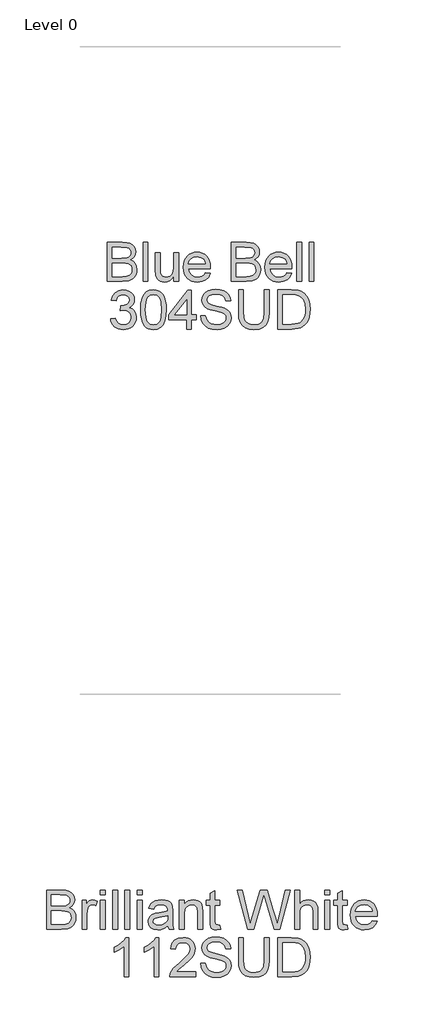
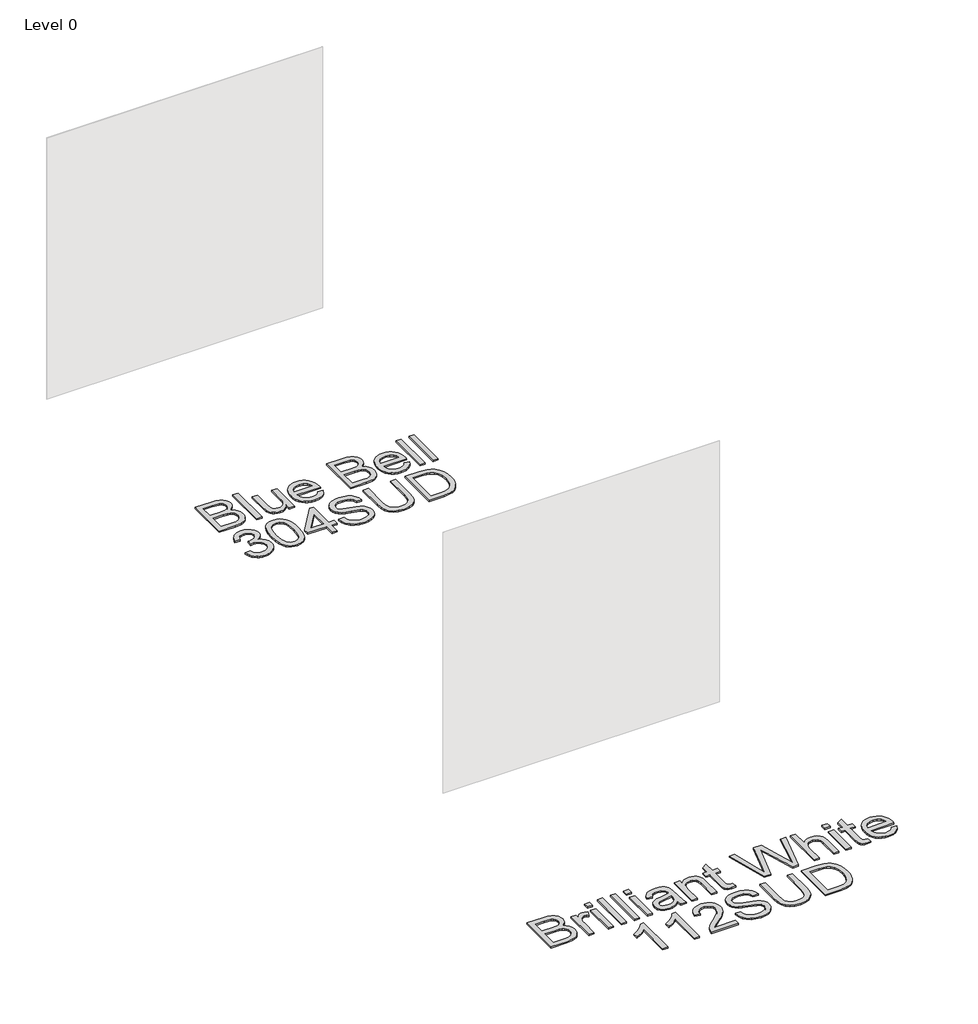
# One storey, part 4 of 37: 2 proxies.
"""IFC4 building model written with IfcOpenShell, lengths in millimetres."""

from ifc_helpers import new_model, si_unit, origin, origin_with_axes, place, context, project, spatial, polyline, outline, extrude, element, save

model = new_model("IFC4")

# Units and contexts
model_context = context("Model", 3, world=origin())
ifc_project = project(units=[si_unit("LENGTHUNIT", "METRE", prefix="MILLI")], contexts=[model_context])

# Site, building, storey
site = spatial("IfcSite", under=ifc_project)
building = spatial("IfcBuilding", under=site)
storey = spatial("IfcBuildingStorey", under=building, Name="Level 0", Elevation=0.0)

# Proxies
placement = place(None, origin())
element("IfcBuildingElementProxy", 1, Name="300mm Arial", ObjectType="300mm Arial", at=placement, inside=storey, context=model_context, shape_type="SweptSolid", body=[
    extrude(outline(polyline([(-5241.7514987, -41912.860494), (-5241.7514987, -41611.4915635), (-5126.751587, -41611.4915635), (-5095.1229325, -41613.7080526), (-5070.4288536, -41620.3575196), (-5051.5013249, -41631.6055116), (-5037.1723212, -41647.6175755), (-5028.1500153, -41666.4531336), (-5025.14258, -41686.1716086), (-5027.6717687, -41704.317388), (-5035.2593348, -41721.3779155), (-5047.9604607, -41736.3047274), (-5065.8303286, -41748.0493601), (-5044.4839759, -41759.1961846), (-5028.7110353, -41776.1555446), (-5018.9713595, -41797.8054), (-5015.7248009, -41823.0237108), (-5017.9412899, -41844.0389697), (-5024.590757, -41863.5275184), (-5034.5143738, -41880.1006023), (-5046.5533121, -41892.3694668), (-5061.2961831, -41901.253817), (-5079.3315979, -41907.6733578), (-5127.6345038, -41912.860494), (-5241.7514987, -41912.860494)]), holes=[polyline([(-5204.0803824, -41733.9226915), (-5135.2864493, -41733.9226915), (-5095.1137355, -41730.68533), (-5081.0514462, -41725.1027207), (-5070.9438884, -41716.7426024), (-5064.8462443, -41705.7337336), (-5062.8136963, -41692.2048733), (-5064.7082886, -41679.071486), (-5070.3920654, -41667.630356), (-5079.6075094, -41658.7000206), (-5092.0971031, -41653.0990172), (-5140.5103737, -41649.1626798), (-5204.0803824, -41649.1626798), (-5204.0803824, -41733.9226915)]), polyline([(-5204.0803824, -41875.1893777), (-5126.8251634, -41875.1893777), (-5098.8661318, -41873.7178497), (-5075.2113195, -41865.5140812), (-5059.5395465, -41848.7754504), (-5054.9318245, -41836.9480443), (-5053.3959172, -41823.3915928), (-5055.198539, -41807.6462434), (-5060.6064043, -41794.1081859), (-5070.0517745, -41783.5223815), (-5083.966911, -41776.6337912), (-5103.6761889, -41772.8538037), (-5130.5039834, -41771.5938078), (-5204.0803824, -41771.5938078), (-5204.0803824, -41875.1893777)])]), origin_with_axes(), (0.0, 0.0, 1.0), 10.0),
    extrude(outline(polyline([(-4968.6359055, -41912.860494), (-4968.6359055, -41611.4915635), (-4930.9647892, -41611.4915635), (-4930.9647892, -41912.860494), (-4968.6359055, -41912.860494)])), origin_with_axes(), (0.0, 0.0, 1.0), 10.0),
    extrude(outline(polyline([(-4733.1914286, -41912.860494), (-4733.1914286, -41874.8214957), (-4746.8214565, -41893.5236966), (-4762.6955646, -41906.8824116), (-4780.8137529, -41914.8976405), (-4801.1760213, -41917.5693835), (-4819.5241358, -41915.6931853), (-4836.6030574, -41910.0645908), (-4850.9320612, -41901.6033049), (-4861.0304219, -41891.2290327), (-4872.2508228, -41863.4907302), (-4874.4581148, -41828.4683643), (-4874.4581148, -41691.5426857), (-4836.7869984, -41691.5426857), (-4836.7869984, -41810.7364521), (-4834.5061301, -41849.1433324), (-4829.0154913, -41861.9548229), (-4819.6069093, -41871.6944987), (-4806.9057834, -41877.8473251), (-4791.537513, -41879.8982672), (-4775.2863259, -41877.8013398), (-4760.0836025, -41871.5105577), (-4747.5480235, -41861.605335), (-4739.2982697, -41848.6650858), (-4734.7181389, -41830.9423707), (-4733.1914286, -41806.6897502), (-4733.1914286, -41691.5426857), (-4695.5203123, -41691.5426857), (-4695.5203123, -41912.860494), (-4733.1914286, -41912.860494)])), origin_with_axes(), (0.0, 0.0, 1.0), 10.0),
    extrude(outline(polyline([(-4488.770631, -41846.9360404), (-4451.8352787, -41851.64493), (-4465.1434099, -41879.4752029), (-4486.379398, -41900.2789297), (-4515.0649966, -41913.2467701), (-4550.721959, -41917.5693835), (-4574.0962613, -41915.7046817), (-4594.9229807, -41910.1105761), (-4613.2021174, -41900.7870668), (-4628.9336712, -41887.7341537), (-4641.5842133, -41871.3151204), (-4650.6203148, -41851.8932503), (-4656.0419757, -41829.4685435), (-4657.849196, -41804.0409998), (-4656.0235816, -41777.7512327), (-4650.5467384, -41754.5792656), (-4641.4186664, -41734.5250983), (-4628.6393656, -41717.5887309), (-4612.9491985, -41704.133447), (-4595.0885276, -41694.5225298), (-4575.057353, -41688.7559796), (-4552.8556746, -41686.8337961), (-4531.3690668, -41688.751381), (-4511.9379997, -41694.5041357), (-4494.5624732, -41704.0920602), (-4479.2424873, -41717.5151545), (-4466.7367988, -41734.4147337), (-4457.8041641, -41754.4321128), (-4452.4445832, -41777.5672917), (-4450.6580563, -41803.8202706), (-4450.8787855, -41813.9738137), (-4620.1780797, -41813.9738137), (-4613.6573713, -41842.1719686), (-4598.5098302, -41862.902119), (-4576.6484426, -41875.6492302), (-4549.986195, -41879.8982672), (-4529.9366263, -41877.9300985), (-4513.0508427, -41872.0255925), (-4499.3288443, -41861.8168672), (-4488.770631, -41846.9360404)]), holes=[polyline([(-4620.1780797, -41776.3026974), (-4488.3291726, -41776.3026974), (-4493.4243382, -41756.4002814), (-4503.4123344, -41742.1632482), (-4525.3748895, -41728.9194964), (-4553.0028274, -41724.5049125), (-4578.3958821, -41728.0273826), (-4599.392747, -41738.5947929), (-4613.9884651, -41755.0667092), (-4620.1780797, -41776.3026974)])]), origin_with_axes(), (0.0, 0.0, 1.0), 10.0),
    extrude(outline(polyline([(-4290.555812, -41912.860494), (-4290.555812, -41611.4915635), (-4175.5559003, -41611.4915635), (-4143.9272458, -41613.7080526), (-4119.2331669, -41620.3575196), (-4100.3056382, -41631.6055116), (-4085.9766345, -41647.6175755), (-4076.9543286, -41666.4531336), (-4073.9468932, -41686.1716086), (-4076.476082, -41704.317388), (-4084.0636481, -41721.3779155), (-4096.764774, -41736.3047274), (-4114.6346419, -41748.0493601), (-4093.2882891, -41759.1961846), (-4077.5153486, -41776.1555446), (-4067.7756728, -41797.8054), (-4064.5291142, -41823.0237108), (-4066.7456032, -41844.0389697), (-4073.3950703, -41863.5275184), (-4083.3186871, -41880.1006023), (-4095.3576254, -41892.3694668), (-4110.1004963, -41901.253817), (-4128.1359111, -41907.6733578), (-4176.4388171, -41912.860494), (-4290.555812, -41912.860494)]), holes=[polyline([(-4252.8846957, -41875.1893777), (-4175.6294767, -41875.1893777), (-4147.6704451, -41873.7178497), (-4124.0156328, -41865.5140812), (-4108.3438598, -41848.7754504), (-4103.7361378, -41836.9480443), (-4102.2002305, -41823.3915928), (-4104.0028523, -41807.6462434), (-4109.4107176, -41794.1081859), (-4118.8560878, -41783.5223815), (-4132.7712243, -41776.6337912), (-4152.4805022, -41772.8538037), (-4179.3082967, -41771.5938078), (-4252.8846957, -41771.5938078), (-4252.8846957, -41875.1893777)]), polyline([(-4252.8846957, -41733.9226915), (-4184.0907626, -41733.9226915), (-4143.9180487, -41730.68533), (-4129.8557595, -41725.1027207), (-4119.7482016, -41716.7426024), (-4113.6505576, -41705.7337336), (-4111.6180096, -41692.2048733), (-4113.5126018, -41679.071486), (-4119.1963787, -41667.630356), (-4128.4118226, -41658.7000206), (-4140.9014164, -41653.0990172), (-4189.3146869, -41649.1626798), (-4252.8846957, -41649.1626798), (-4252.8846957, -41733.9226915)])]), origin_with_axes(), (0.0, 0.0, 1.0), 10.0),
    extrude(outline(polyline([(-3862.4883224, -41846.9360404), (-3825.5529701, -41851.64493), (-3838.8611013, -41879.4752029), (-3860.0970895, -41900.2789297), (-3888.782688, -41913.2467701), (-3924.4396504, -41917.5693835), (-3947.8139527, -41915.7046817), (-3968.6406721, -41910.1105761), (-3986.9198088, -41900.7870668), (-4002.6513626, -41887.7341537), (-4015.3019047, -41871.3151204), (-4024.3380062, -41851.8932503), (-4029.7596671, -41829.4685435), (-4031.5668874, -41804.0409998), (-4029.741273, -41777.7512327), (-4024.2644298, -41754.5792656), (-4015.1363578, -41734.5250983), (-4002.357057, -41717.5887309), (-3986.6668899, -41704.133447), (-3968.806219, -41694.5225298), (-3948.7750444, -41688.7559796), (-3926.573366, -41686.8337961), (-3905.0867582, -41688.751381), (-3885.6556911, -41694.5041357), (-3868.2801646, -41704.0920602), (-3852.9601787, -41717.5151545), (-3840.4544902, -41734.4147337), (-3831.5218555, -41754.4321128), (-3826.1622747, -41777.5672917), (-3824.3757477, -41803.8202706), (-3824.5964769, -41813.9738137), (-3993.8957711, -41813.9738137), (-3987.3750627, -41842.1719686), (-3972.2275216, -41862.902119), (-3950.366134, -41875.6492302), (-3923.7038864, -41879.8982672), (-3903.6543177, -41877.9300985), (-3886.7685341, -41872.0255925), (-3873.0465357, -41861.8168672), (-3862.4883224, -41846.9360404)]), holes=[polyline([(-3993.8957711, -41776.3026974), (-3862.046864, -41776.3026974), (-3867.1420297, -41756.4002814), (-3877.1300258, -41742.1632482), (-3899.0925809, -41728.9194964), (-3926.7205188, -41724.5049125), (-3952.1135735, -41728.0273826), (-3973.1104384, -41738.5947929), (-3987.7061565, -41755.0667092), (-3993.8957711, -41776.3026974)])]), origin_with_axes(), (0.0, 0.0, 1.0), 10.0),
    extrude(outline(polyline([(-3786.7046314, -41912.860494), (-3786.7046314, -41611.4915635), (-3749.0335151, -41611.4915635), (-3749.0335151, -41912.860494), (-3786.7046314, -41912.860494)])), origin_with_axes(), (0.0, 0.0, 1.0), 10.0),
    extrude(outline(polyline([(-3692.5268406, -41912.860494), (-3692.5268406, -41611.4915635), (-3654.8557243, -41611.4915635), (-3654.8557243, -41912.860494), (-3692.5268406, -41912.860494)])), origin_with_axes(), (0.0, 0.0, 1.0), 10.0),
    extrude(outline(polyline([(-5218.207051, -42198.7338254), (-5180.5359347, -42194.0249358), (-5172.10224, -42217.6981422), (-5159.750602, -42233.6826149), (-5142.8740155, -42242.7876943), (-5120.8654751, -42245.8227207), (-5095.0401591, -42241.6472601), (-5075.1009549, -42229.1208782), (-5062.3538438, -42210.4324728), (-5058.1048067, -42187.7709419), (-5062.3170556, -42166.2590422), (-5074.9538021, -42148.8122386), (-5094.0836659, -42137.2515469), (-5117.7752664, -42133.397983), (-5144.1891936, -42137.5182614), (-5139.9953389, -42099.8471451), (-5133.9620741, -42100.2886035), (-5111.3925137, -42097.5846708), (-5091.2141863, -42089.4728728), (-5076.9771531, -42075.7508744), (-5072.2314754, -42056.2163404), (-5075.671172, -42039.9467592), (-5085.990262, -42026.7489926), (-5101.7356114, -42018.0025982), (-5121.4540863, -42015.0871334), (-5141.2093495, -42018.0301893), (-5157.359369, -42026.8593572), (-5169.149987, -42041.574637), (-5175.8270452, -42062.1760288), (-5213.4981615, -42057.4671392), (-5202.4065194, -42023.6403898), (-5182.6696503, -41998.3852908), (-5155.6671119, -41982.6583355), (-5122.7784615, -41977.4160171), (-5099.0960581, -41980.0003881), (-5077.3450351, -41987.7535011), (-5059.0061176, -41999.9855775), (-5045.5600307, -42016.0068384), (-5037.310277, -42034.4653175), (-5034.5603591, -42054.0090485), (-5037.1723212, -42072.2192072), (-5045.0082077, -42088.7371088), (-5057.9576539, -42102.8085951), (-5075.9102953, -42113.6795081), (-5052.3290594, -42123.2076518), (-5034.8546646, -42139.4312477), (-5024.038934, -42161.4673793), (-5020.4336904, -42188.4331295), (-5022.2363122, -42207.5445992), (-5027.6441775, -42225.1477526), (-5036.6572864, -42241.2425899), (-5049.2756389, -42255.829111), (-5064.6485077, -42267.9324287), (-5081.9251659, -42276.5776555), (-5101.1056135, -42281.7647917), (-5122.1898503, -42283.4938371), (-5141.2461377, -42282.0177105), (-5158.6101678, -42277.589331), (-5174.2819408, -42270.2086985), (-5188.2614566, -42259.875813), (-5199.9830967, -42247.1976797), (-5208.8812425, -42232.781304), (-5214.9558939, -42216.6266859), (-5218.207051, -42198.7338254)])), origin_with_axes(), (0.0, 0.0, 1.0), 10.0),
    extrude(outline(polyline([(-4987.4714637, -42130.5285035), (-4984.7031517, -42082.2899768), (-4976.3982156, -42043.8187172), (-4962.639429, -42014.5261133), (-4943.5095652, -41993.8235541), (-4918.8706686, -41981.5179013), (-4888.5847834, -41977.4160171), (-4865.3714295, -41979.8440382), (-4844.5860967, -41987.1281017), (-4827.2036725, -41998.983099), (-4814.1990439, -42015.1239216), (-4804.3765947, -42035.4126136), (-4796.5407082, -42059.7112194), (-4791.4087543, -42090.5673217), (-4789.6981031, -42130.5285035), (-4792.4388239, -42178.4911186), (-4800.6609865, -42216.8704077), (-4814.3369997, -42246.1906027), (-4833.4392723, -42266.9759355), (-4858.1333512, -42279.3643617), (-4888.5847834, -42283.4938371), (-4909.3333279, -42281.7004123), (-4927.7274277, -42276.3201381), (-4943.7670826, -42267.3530145), (-4957.4522929, -42254.7990414), (-4970.5856801, -42232.1053209), (-4979.966671, -42203.828991), (-4985.5952655, -42169.9700519), (-4987.4714637, -42130.5285035)]), holes=[polyline([(-4949.8003474, -42130.4549271), (-4945.3857634, -42189.7115194), (-4939.8675335, -42209.9795181), (-4932.1420116, -42224.0073184), (-4912.4235367, -42240.3688702), (-4888.5847834, -42245.8227207), (-4864.7460301, -42240.3504761), (-4845.0275551, -42223.933742), (-4837.3020332, -42209.8829491), (-4831.7838033, -42189.6195489), (-4827.3692194, -42130.4549271), (-4831.6366505, -42072.5319069), (-4836.9709394, -42052.3305869), (-4844.4389439, -42037.9693935), (-4864.1206307, -42020.8076984), (-4889.0262418, -42015.0871334), (-4912.6074777, -42020.1271167), (-4931.5534004, -42035.2470667), (-4939.5364397, -42050.8820515), (-4945.2386106, -42071.9616898), (-4949.8003474, -42130.4549271)])]), origin_with_axes(), (0.0, 0.0, 1.0), 10.0),
    extrude(outline(polyline([(-4634.3047483, -42278.7849475), (-4634.3047483, -42208.1516044), (-4770.8625449, -42208.1516044), (-4770.8625449, -42170.4804881), (-4624.8869692, -41982.1249066), (-4596.633632, -41982.1249066), (-4596.633632, -42170.4804881), (-4558.9625157, -42170.4804881), (-4558.9625157, -42208.1516044), (-4596.633632, -42208.1516044), (-4596.633632, -42278.7849475), (-4634.3047483, -42278.7849475)]), holes=[polyline([(-4634.3047483, -42170.4804881), (-4634.3047483, -42054.0826249), (-4724.5094135, -42170.4804881), (-4634.3047483, -42170.4804881)])]), origin_with_axes(), (0.0, 0.0, 1.0), 10.0),
    extrude(outline(polyline([(-4526.0002889, -42175.1893777), (-4488.3291726, -42175.1893777), (-4484.0065592, -42196.0942721), (-4476.1890668, -42212.8972822), (-4463.9937786, -42226.2330045), (-4446.537778, -42236.7360355), (-4425.2006222, -42243.5510494), (-4401.361869, -42245.8227207), (-4380.3742011, -42244.1028724), (-4361.9984955, -42238.9433274), (-4347.1084717, -42230.7763471), (-4336.5778496, -42220.0341929), (-4330.3146586, -42207.700949), (-4328.2269283, -42194.7606998), (-4329.7904268, -42182.1515444), (-4334.4809222, -42171.2530403), (-4344.0090659, -42161.9548229), (-4360.0855091, -42154.1465276), (-4414.9367146, -42139.7623415), (-4450.9431649, -42130.2433949), (-4473.9817748, -42121.1843008), (-4492.7345595, -42108.510766), (-4506.0242966, -42093.1516928), (-4513.9429565, -42075.4381747), (-4516.5825098, -42055.7013056), (-4513.3175571, -42033.637583), (-4503.522699, -42013.0637824), (-4487.4554529, -41995.6261758), (-4465.3733361, -41982.9710352), (-4438.8674384, -41975.2731044), (-4409.5288492, -41972.7071275), (-4377.7438449, -41975.3926661), (-4349.931966, -41983.4492818), (-4327.0864941, -41996.7114277), (-4310.2007105, -42015.013557), (-4299.5137386, -42037.2152354), (-4295.2647015, -42062.1760288), (-4332.9358179, -42062.1760288), (-4339.8519994, -42039.6984389), (-4354.2729736, -42023.4748429), (-4376.8057458, -42013.6523936), (-4408.0573213, -42010.3782438), (-4440.0446607, -42013.6156054), (-4461.9888218, -42023.3276901), (-4474.6807506, -42037.6199056), (-4478.9113935, -42054.5976597), (-4475.9131553, -42069.0738162), (-4466.9184405, -42080.7172813), (-4445.6548612, -42091.1283418), (-4405.4085709, -42101.7601314), (-4363.8746936, -42111.8584922), (-4338.7483534, -42120.669266), (-4317.2732419, -42134.3360821), (-4302.2912477, -42151.2034716), (-4293.4896709, -42171.0874934), (-4290.555812, -42193.8042066), (-4293.9311293, -42217.0267576), (-4304.0570812, -42238.869751), (-4320.5198005, -42257.668521), (-4342.9054199, -42271.7584014), (-4369.8251849, -42280.5599781), (-4399.890341, -42283.4938371), (-4436.7981021, -42280.3300519), (-4467.1759579, -42270.8386964), (-4491.3733961, -42254.9829824), (-4509.7399047, -42232.7261217), (-4521.5305227, -42205.6132187), (-4526.0002889, -42175.1893777)])), origin_with_axes(), (0.0, 0.0, 1.0), 10.0),
    extrude(outline(polyline([(-4036.2757769, -41977.4160171), (-3998.6046606, -41977.4160171), (-3998.6046606, -42151.277048), (-4001.1614405, -42191.9923878), (-4008.8317801, -42223.3451308), (-4023.1607838, -42247.533372), (-4045.693556, -42266.7552063), (-4076.485279, -42279.3091794), (-4115.5911351, -42283.4938371), (-4153.8416655, -42279.8518053), (-4184.4218564, -42268.92571), (-4207.3409047, -42251.0926303), (-4222.6080075, -42226.7296452), (-4231.188855, -42194.052527), (-4234.0491375, -42151.277048), (-4234.0491375, -41977.4160171), (-4196.3780212, -41977.4160171), (-4196.3780212, -42149.9526728), (-4194.5202172, -42183.8070134), (-4188.9468049, -42207.3790523), (-4178.8484442, -42223.7038158), (-4163.4157945, -42235.8163305), (-4143.2926493, -42243.3211232), (-4119.1228023, -42245.8227207), (-4080.8078925, -42240.8747079), (-4066.4650932, -42234.6896919), (-4055.3320643, -42226.0306694), (-4046.9949386, -42213.8537754), (-4041.0398488, -42197.1151446), (-4036.2757769, -42149.9526728), (-4036.2757769, -41977.4160171)])), origin_with_axes(), (0.0, 0.0, 1.0), 10.0),
    extrude(outline(polyline([(-3932.6802071, -42278.7849475), (-3932.6802071, -41977.4160171), (-3828.7167553, -41977.4160171), (-3774.9324076, -41981.7570246), (-3750.9097133, -41990.12634), (-3730.6394153, -42003.3149095), (-3709.7989003, -42026.270746), (-3694.9548618, -42054.8183889), (-3686.0705116, -42088.406015), (-3683.1090616, -42126.4818015), (-3685.1140184, -42158.8278259), (-3691.1288891, -42187.2926953), (-3700.2891507, -42211.5269217), (-3711.7302808, -42231.1810173), (-3724.9004562, -42246.6964405), (-3739.247854, -42258.5146496), (-3755.7197704, -42267.2794381), (-3775.2635014, -42273.6345996), (-3823.7135601, -42278.7849475), (-3932.6802071, -42278.7849475)]), holes=[polyline([(-3895.0090908, -42241.1138312), (-3828.3488733, -42241.1138312), (-3800.7761177, -42239.7526678), (-3779.8620263, -42235.6691777), (-3764.0798887, -42229.1024841), (-3751.9029947, -42220.2917103), (-3738.8155927, -42203.9853408), (-3728.9839464, -42182.8781114), (-3722.83112, -42156.8780514), (-3720.7801779, -42125.8931903), (-3724.7992887, -42084.8375597), (-3736.8566211, -42054.5240833), (-3754.6713067, -42033.7019623), (-3775.9624772, -42021.1203981), (-3797.6307267, -42016.5954496), (-3829.3789429, -42015.0871334), (-3895.0090908, -42015.0871334), (-3895.0090908, -42241.1138312)])]), origin_with_axes(), (0.0, 0.0, 1.0), 10.0),
])
element("IfcBuildingElementProxy", 2, Name="300mm Arial", ObjectType="300mm Arial", at=placement, inside=storey, context=model_context, shape_type="SweptSolid", body=[
    extrude(outline(polyline([(-5710.2860078, -46892.860494), (-5710.2860078, -46591.4915635), (-5595.2860961, -46591.4915635), (-5563.6574416, -46593.7080526), (-5538.9633626, -46600.3575196), (-5520.035834, -46611.6055116), (-5505.7068303, -46627.6175755), (-5496.6845243, -46646.4531336), (-5493.677089, -46666.1716086), (-5496.2062777, -46684.317388), (-5503.7938439, -46701.3779155), (-5516.4949698, -46716.3047274), (-5534.3648377, -46728.0493601), (-5513.0184849, -46739.1961846), (-5497.2455444, -46756.1555446), (-5487.5058686, -46777.8054), (-5484.25931, -46803.0237108), (-5486.475799, -46824.0389697), (-5493.125266, -46843.5275184), (-5503.0488829, -46860.1006023), (-5515.0878212, -46872.3694668), (-5529.8306921, -46881.253817), (-5547.8661069, -46887.6733578), (-5596.1690129, -46892.860494), (-5710.2860078, -46892.860494)]), holes=[polyline([(-5672.6148915, -46713.9226915), (-5603.8209584, -46713.9226915), (-5563.6482445, -46710.68533), (-5549.5859552, -46705.1027207), (-5539.4783974, -46696.7426024), (-5533.3807534, -46685.7337336), (-5531.3482053, -46672.2048733), (-5533.2427976, -46659.071486), (-5538.9265744, -46647.630356), (-5548.1420184, -46638.7000206), (-5560.6316122, -46633.0990172), (-5609.0448827, -46629.1626798), (-5672.6148915, -46629.1626798), (-5672.6148915, -46713.9226915)]), polyline([(-5672.6148915, -46855.1893777), (-5595.3596725, -46855.1893777), (-5567.4006409, -46853.7178497), (-5543.7458286, -46845.5140812), (-5528.0740556, -46828.7754504), (-5523.4663336, -46816.9480443), (-5521.9304263, -46803.3915928), (-5523.733048, -46787.6462434), (-5529.1409134, -46774.1081859), (-5538.5862836, -46763.5223815), (-5552.5014201, -46756.6337912), (-5572.210698, -46752.8538037), (-5599.0384925, -46751.5938078), (-5672.6148915, -46751.5938078), (-5672.6148915, -46855.1893777)])]), origin_with_axes(), (0.0, 0.0, 1.0), 10.0),
    extrude(outline(polyline([(-5437.1704146, -46892.860494), (-5437.1704146, -46671.5426857), (-5404.2081878, -46671.5426857), (-5404.2081878, -46704.2841833), (-5392.0312938, -46685.3014723), (-5380.8108929, -46674.1178596), (-5369.5537039, -46668.654812), (-5357.2664452, -46666.8337961), (-5338.5044635, -46669.7400639), (-5319.4481761, -46678.4588672), (-5332.0297404, -46712.2304343), (-5345.2734922, -46706.4362929), (-5358.517244, -46704.5049125), (-5369.765236, -46706.3627165), (-5379.8176115, -46711.9361288), (-5387.9386066, -46720.8020848), (-5393.3924571, -46732.5375205), (-5397.972588, -46753.5803706), (-5399.4992983, -46776.5362071), (-5399.4992983, -46892.860494), (-5437.1704146, -46892.860494)])), origin_with_axes(), (0.0, 0.0, 1.0), 10.0),
    extrude(outline(polyline([(-5295.9037284, -46629.1626798), (-5295.9037284, -46591.4915635), (-5258.2326121, -46591.4915635), (-5258.2326121, -46629.1626798), (-5295.9037284, -46629.1626798)])), origin_with_axes(), (0.0, 0.0, 1.0), 10.0),
    extrude(outline(polyline([(-5295.9037284, -46892.860494), (-5295.9037284, -46671.5426857), (-5258.2326121, -46671.5426857), (-5258.2326121, -46892.860494), (-5295.9037284, -46892.860494)])), origin_with_axes(), (0.0, 0.0, 1.0), 10.0),
    extrude(outline(polyline([(-5201.7259377, -46892.860494), (-5201.7259377, -46591.4915635), (-5164.0548214, -46591.4915635), (-5164.0548214, -46892.860494), (-5201.7259377, -46892.860494)])), origin_with_axes(), (0.0, 0.0, 1.0), 10.0),
    extrude(outline(polyline([(-5107.5481469, -46892.860494), (-5107.5481469, -46591.4915635), (-5069.8770306, -46591.4915635), (-5069.8770306, -46892.860494), (-5107.5481469, -46892.860494)])), origin_with_axes(), (0.0, 0.0, 1.0), 10.0),
    extrude(outline(polyline([(-5013.3703561, -46629.1626798), (-5013.3703561, -46591.4915635), (-4975.6992398, -46591.4915635), (-4975.6992398, -46629.1626798), (-5013.3703561, -46629.1626798)])), origin_with_axes(), (0.0, 0.0, 1.0), 10.0),
    extrude(outline(polyline([(-5013.3703561, -46892.860494), (-5013.3703561, -46671.5426857), (-4975.6992398, -46671.5426857), (-4975.6992398, -46892.860494), (-5013.3703561, -46892.860494)])), origin_with_axes(), (0.0, 0.0, 1.0), 10.0),
    extrude(outline(polyline([(-4777.9258792, -46864.6071568), (-4795.9245058, -46880.0398064), (-4814.4565613, -46890.1381672), (-4833.94511, -46895.7115794), (-4854.8132162, -46897.5693835), (-4886.2947179, -46893.0996173), (-4909.5172689, -46879.6903186), (-4923.8370756, -46859.3280501), (-4928.6103444, -46833.9993748), (-4926.8077227, -46818.3827841), (-4921.3998573, -46804.2009331), (-4913.0581331, -46792.0608273), (-4902.4539346, -46782.5694718), (-4876.0767955, -46770.2086368), (-4843.4824508, -46764.5432541), (-4804.9652059, -46758.5835657), (-4778.1466084, -46751.5938078), (-4777.9258792, -46743.2060983), (-4780.5194473, -46726.3938912), (-4788.3001515, -46715.3942195), (-4805.7009699, -46707.2272392), (-4829.9443933, -46704.5049125), (-4852.385195, -46706.3167313), (-4868.056968, -46711.7521878), (-4878.74394, -46721.8045633), (-4886.2303386, -46737.4671392), (-4923.9014549, -46732.7582497), (-4917.3623524, -46712.1568579), (-4907.6042825, -46695.9700502), (-4893.7167372, -46683.590821), (-4874.7892085, -46674.4121652), (-4851.640234, -46668.7283884), (-4825.088351, -46666.8337961), (-4799.6217199, -46668.5076592), (-4779.4341954, -46673.5292485), (-4764.2130778, -46681.0800264), (-4753.6456675, -46690.3414556), (-4746.6375155, -46701.7917827), (-4742.0941729, -46715.9092543), (-4740.2547629, -46748.8714811), (-4740.2547629, -46795.7396473), (-4738.3417765, -46861.1858542), (-4730.8369838, -46892.860494), (-4768.5081001, -46892.860494), (-4777.9258792, -46864.6071568)]), holes=[polyline([(-4777.9258792, -46789.2649241), (-4838.6999848, -46800.8164188), (-4871.1103886, -46806.9232599), (-4885.7888802, -46816.8560738), (-4890.9392281, -46831.3506244), (-4888.1341279, -46842.5526311), (-4879.7188273, -46851.7312869), (-4865.8772672, -46857.8565221), (-4846.7933887, -46859.8982672), (-4826.559879, -46857.64499), (-4808.680814, -46850.8851583), (-4794.1862634, -46840.9247533), (-4784.1062967, -46829.069756), (-4779.6365305, -46816.8560738), (-4778.1466084, -46799.933502), (-4777.9258792, -46789.2649241)])]), origin_with_axes(), (0.0, 0.0, 1.0), 10.0),
    extrude(outline(polyline([(-4688.456978, -46892.860494), (-4688.456978, -46671.5426857), (-4650.7858617, -46671.5426857), (-4650.7858617, -46702.4447733), (-4637.6984597, -46686.8649708), (-4621.9807015, -46675.7365404), (-4603.632587, -46669.0594822), (-4582.6541162, -46666.8337961), (-4564.0852725, -46668.6272209), (-4547.0799272, -46674.0074951), (-4532.8980763, -46682.303234), (-4522.7997156, -46692.8430532), (-4511.5057383, -46720.5445674), (-4509.5191755, -46756.964885), (-4509.5191755, -46892.860494), (-4547.1902918, -46892.860494), (-4547.1902918, -46762.0416565), (-4551.5312994, -46728.7115477), (-4557.536973, -46718.7879309), (-4566.8719786, -46711.0900002), (-4578.8373405, -46706.1511844), (-4592.7340828, -46704.5049125), (-4614.7978055, -46708.2021265), (-4633.6057725, -46719.2937687), (-4641.1220615, -46728.3482643), (-4646.4908394, -46740.7228949), (-4650.7858617, -46775.4325611), (-4650.7858617, -46892.860494), (-4688.456978, -46892.860494)])), origin_with_axes(), (0.0, 0.0, 1.0), 10.0),
    extrude(outline(polyline([(-4377.6702685, -46861.4433716), (-4372.9613789, -46893.96414), (-4401.1411398, -46897.5693835), (-4419.2225398, -46896.005885), (-4432.7054149, -46891.3153896), (-4442.2335586, -46884.0865084), (-4448.4507643, -46874.9078526), (-4451.8720669, -46859.1441091), (-4453.0125011, -46832.1599648), (-4453.0125011, -46709.213802), (-4481.2658383, -46709.213802), (-4481.2658383, -46671.5426857), (-4453.0125011, -46671.5426857), (-4453.0125011, -46617.758338), (-4415.3413848, -46595.6118419), (-4415.3413848, -46671.5426857), (-4377.6702685, -46671.5426857), (-4377.6702685, -46709.213802), (-4415.3413848, -46709.213802), (-4415.3413848, -46831.0563188), (-4413.354822, -46850.4804881), (-4406.9168871, -46857.3598814), (-4394.0778054, -46859.8982672), (-4377.6702685, -46861.4433716)])), origin_with_axes(), (0.0, 0.0, 1.0), 10.0),
    extrude(outline(polyline([(-4163.6365237, -46892.860494), (-4245.8213614, -46591.4915635), (-4206.9730227, -46591.4915635), (-4159.2955161, -46789.5592297), (-4144.5802363, -46850.7012173), (-4128.8348869, -46796.622564), (-4069.0908509, -46591.4915635), (-4013.0992112, -46591.4915635), (-3969.6891358, -46740.189466), (-3951.092701, -46795.3717653), (-3937.3890966, -46850.7012173), (-3923.1152752, -46791.3250633), (-3874.9963103, -46591.4915635), (-3836.1479716, -46591.4915635), (-3918.4063857, -46892.860494), (-3958.652676, -46892.860494), (-4030.9046998, -46660.359073), (-4040.9846665, -46627.9118811), (-4052.3154319, -46666.9809489), (-4118.1663091, -46892.860494), (-4163.6365237, -46892.860494)])), origin_with_axes(), (0.0, 0.0, 1.0), 10.0),
    extrude(outline(polyline([(-3803.1857448, -46892.860494), (-3803.1857448, -46591.4915635), (-3765.5146285, -46591.4915635), (-3765.5146285, -46702.2976205), (-3751.6776669, -46686.7821973), (-3736.1392512, -46675.6997522), (-3718.8993812, -46669.0502852), (-3699.9580569, -46666.8337961), (-3677.2045555, -46669.2526203), (-3657.6516275, -46676.5090926), (-3642.255766, -46688.0329961), (-3631.9734642, -46703.2541137), (-3626.1793228, -46724.1682051), (-3624.2479423, -46752.7710302), (-3624.2479423, -46892.860494), (-3661.9190586, -46892.860494), (-3661.9190586, -46756.6705794), (-3664.9172969, -46733.0893435), (-3673.9120117, -46716.9393239), (-3688.4065623, -46707.6135153), (-3707.904308, -46704.5049125), (-3723.8244014, -46706.6018398), (-3738.7696074, -46712.8926219), (-3751.1488366, -46722.7702535), (-3759.3709992, -46735.6277292), (-3763.9787212, -46752.7158479), (-3765.5146285, -46775.2854083), (-3765.5146285, -46892.860494), (-3803.1857448, -46892.860494)])), origin_with_axes(), (0.0, 0.0, 1.0), 10.0),
    extrude(outline(polyline([(-3572.4501574, -46629.1626798), (-3572.4501574, -46591.4915635), (-3534.7790411, -46591.4915635), (-3534.7790411, -46629.1626798), (-3572.4501574, -46629.1626798)])), origin_with_axes(), (0.0, 0.0, 1.0), 10.0),
    extrude(outline(polyline([(-3572.4501574, -46892.860494), (-3572.4501574, -46671.5426857), (-3534.7790411, -46671.5426857), (-3534.7790411, -46892.860494), (-3572.4501574, -46892.860494)])), origin_with_axes(), (0.0, 0.0, 1.0), 10.0),
    extrude(outline(polyline([(-3398.2212445, -46861.4433716), (-3393.512355, -46893.96414), (-3421.6921158, -46897.5693835), (-3439.7735159, -46896.005885), (-3453.256391, -46891.3153896), (-3462.7845347, -46884.0865084), (-3469.0017404, -46874.9078526), (-3472.4230429, -46859.1441091), (-3473.5634771, -46832.1599648), (-3473.5634771, -46709.213802), (-3501.8168143, -46709.213802), (-3501.8168143, -46671.5426857), (-3473.5634771, -46671.5426857), (-3473.5634771, -46617.758338), (-3435.8923608, -46595.6118419), (-3435.8923608, -46671.5426857), (-3398.2212445, -46671.5426857), (-3398.2212445, -46709.213802), (-3435.8923608, -46709.213802), (-3435.8923608, -46831.0563188), (-3433.905798, -46850.4804881), (-3427.4678631, -46857.3598814), (-3414.6287815, -46859.8982672), (-3398.2212445, -46861.4433716)])), origin_with_axes(), (0.0, 0.0, 1.0), 10.0),
    extrude(outline(polyline([(-3205.5982318, -46826.9360404), (-3168.6628795, -46831.64493), (-3181.9710107, -46859.4752029), (-3203.2069989, -46880.2789297), (-3231.8925974, -46893.2467701), (-3267.5495598, -46897.5693835), (-3290.9238621, -46895.7046817), (-3311.7505815, -46890.1105761), (-3330.0297182, -46880.7870668), (-3345.761272, -46867.7341537), (-3358.4118141, -46851.3151204), (-3367.4479156, -46831.8932503), (-3372.8695765, -46809.4685435), (-3374.6767968, -46784.0409998), (-3372.8511824, -46757.7512327), (-3367.3743392, -46734.5792656), (-3358.2462672, -46714.5250983), (-3345.4669664, -46697.5887309), (-3329.7767993, -46684.133447), (-3311.9161284, -46674.5225298), (-3291.8849538, -46668.7559796), (-3269.6832754, -46666.8337961), (-3248.1966676, -46668.751381), (-3228.7656005, -46674.5041357), (-3211.390074, -46684.0920602), (-3196.0700882, -46697.5151545), (-3183.5643996, -46714.4147337), (-3174.6317649, -46734.4321128), (-3169.2721841, -46757.5672917), (-3167.4856571, -46783.8202706), (-3167.7063863, -46793.9738137), (-3337.0056805, -46793.9738137), (-3330.4849721, -46822.1719686), (-3315.337431, -46842.902119), (-3293.4760434, -46855.6492302), (-3266.8137958, -46859.8982672), (-3246.7642271, -46857.9300985), (-3229.8784435, -46852.0255925), (-3216.1564451, -46841.8168671), (-3205.5982318, -46826.9360404)]), holes=[polyline([(-3337.0056805, -46756.3026974), (-3205.1567734, -46756.3026974), (-3210.2519391, -46736.4002814), (-3220.2399352, -46722.1632482), (-3242.2024904, -46708.9194964), (-3269.8304282, -46704.5049125), (-3295.2234829, -46708.0273826), (-3316.2203478, -46718.5947929), (-3330.8160659, -46735.0667092), (-3337.0056805, -46756.3026974)])]), origin_with_axes(), (0.0, 0.0, 1.0), 10.0),
    extrude(outline(polyline([(-5076.9403649, -47258.7849475), (-5114.6114812, -47258.7849475), (-5114.6114812, -47023.9290818), (-5150.2960347, -47049.3497277), (-5189.9537138, -47068.3692268), (-5189.9537138, -47032.7582497), (-5160.3668044, -47016.6634124), (-5134.7346263, -46997.5151545), (-5114.5287078, -46977.1528861), (-5101.2205766, -46957.4160171), (-5076.9403649, -46957.4160171), (-5076.9403649, -47258.7849475)])), origin_with_axes(), (0.0, 0.0, 1.0), 10.0),
    extrude(outline(polyline([(-4846.2047775, -47258.7849475), (-4883.8758938, -47258.7849475), (-4883.8758938, -47023.9290818), (-4919.5604474, -47049.3497277), (-4959.2181264, -47068.3692268), (-4959.2181264, -47032.7582497), (-4929.631217, -47016.6634124), (-4903.999039, -46997.5151545), (-4883.7931204, -46977.1528861), (-4870.4849892, -46957.4160171), (-4846.2047775, -46957.4160171), (-4846.2047775, -47258.7849475)])), origin_with_axes(), (0.0, 0.0, 1.0), 10.0),
    extrude(outline(polyline([(-4563.6714052, -47221.1138312), (-4563.6714052, -47258.7849475), (-4761.4447658, -47258.7849475), (-4757.3980639, -47232.8124787), (-4748.1090435, -47212.5145896), (-4734.5158038, -47192.8237058), (-4714.8525111, -47172.213117), (-4687.353332, -47149.156113), (-4646.7023715, -47113.0484951), (-4622.3117953, -47086.3954446), (-4610.1165071, -47064.7639833), (-4606.0514111, -47043.7211331), (-4609.8865809, -47024.8579838), (-4621.3920903, -47009.1770138), (-4639.0780172, -46998.6096035), (-4661.4544395, -46995.0871334), (-4684.952902, -46998.52683), (-4703.209046, -47008.84592), (-4714.9904669, -47025.2350629), (-4719.06476, -47046.8849183), (-4756.7358763, -47042.1760288), (-4747.6032058, -47005.7373171), (-4739.0568472, -46991.2013798), (-4727.8571397, -46979.1210548), (-4714.2616007, -46969.6251008), (-4698.5277476, -46962.8422765), (-4660.6450992, -46957.4160171), (-4640.4552754, -46958.9243332), (-4622.4865392, -46963.4492818), (-4606.7388905, -46970.9908627), (-4593.2123294, -46981.549076), (-4582.3483143, -46994.3421723), (-4574.5883034, -47008.5884026), (-4569.9322969, -47024.2877667), (-4568.3802948, -47041.4402648), (-4570.0541578, -47059.4572855), (-4575.0757471, -47077.1616065), (-4583.9876884, -47095.1694302), (-4597.3326078, -47114.0969588), (-4618.6053842, -47136.6941104), (-4651.3008965, -47165.7108027), (-4694.6373955, -47201.9471793), (-4711.6335437, -47221.1138312), (-4563.6714052, -47221.1138312)])), origin_with_axes(), (0.0, 0.0, 1.0), 10.0),
    extrude(outline(polyline([(-4526.0002889, -47155.1893777), (-4488.3291726, -47155.1893777), (-4484.0065592, -47176.0942721), (-4476.1890668, -47192.8972822), (-4463.9937786, -47206.2330045), (-4446.537778, -47216.7360355), (-4425.2006222, -47223.5510494), (-4401.361869, -47225.8227207), (-4380.3742011, -47224.1028724), (-4361.9984955, -47218.9433274), (-4347.1084717, -47210.7763471), (-4336.5778496, -47200.0341929), (-4330.3146586, -47187.700949), (-4328.2269283, -47174.7606998), (-4329.7904268, -47162.1515444), (-4334.4809222, -47151.2530403), (-4344.0090659, -47141.9548229), (-4360.0855091, -47134.1465276), (-4414.9367146, -47119.7623415), (-4450.9431649, -47110.2433949), (-4473.9817748, -47101.1843008), (-4492.7345595, -47088.510766), (-4506.0242966, -47073.1516928), (-4513.9429565, -47055.4381747), (-4516.5825098, -47035.7013056), (-4513.3175571, -47013.637583), (-4503.522699, -46993.0637824), (-4487.4554529, -46975.6261758), (-4465.3733361, -46962.9710352), (-4438.8674384, -46955.2731044), (-4409.5288492, -46952.7071275), (-4377.7438449, -46955.3926661), (-4349.931966, -46963.4492818), (-4327.0864941, -46976.7114277), (-4310.2007105, -46995.013557), (-4299.5137386, -47017.2152354), (-4295.2647015, -47042.1760288), (-4332.9358179, -47042.1760288), (-4339.8519994, -47019.6984389), (-4354.2729736, -47003.4748429), (-4376.8057458, -46993.6523936), (-4408.0573213, -46990.3782438), (-4440.0446607, -46993.6156054), (-4461.9888218, -47003.3276901), (-4474.6807506, -47017.6199056), (-4478.9113935, -47034.5976597), (-4475.9131553, -47049.0738162), (-4466.9184405, -47060.7172813), (-4445.6548612, -47071.1283418), (-4405.4085709, -47081.7601314), (-4363.8746936, -47091.8584922), (-4338.7483534, -47100.669266), (-4317.2732419, -47114.3360821), (-4302.2912477, -47131.2034716), (-4293.4896709, -47151.0874934), (-4290.555812, -47173.8042066), (-4293.9311293, -47197.0267576), (-4304.0570812, -47218.869751), (-4320.5198005, -47237.668521), (-4342.9054199, -47251.7584014), (-4369.8251849, -47260.5599781), (-4399.890341, -47263.4938371), (-4436.7981021, -47260.3300519), (-4467.1759579, -47250.8386964), (-4491.3733961, -47234.9829824), (-4509.7399047, -47212.7261217), (-4521.5305227, -47185.6132187), (-4526.0002889, -47155.1893777)])), origin_with_axes(), (0.0, 0.0, 1.0), 10.0),
    extrude(outline(polyline([(-4036.2757769, -46957.4160171), (-3998.6046606, -46957.4160171), (-3998.6046606, -47131.277048), (-4001.1614405, -47171.9923878), (-4008.8317801, -47203.3451308), (-4023.1607838, -47227.533372), (-4045.693556, -47246.7552063), (-4076.485279, -47259.3091794), (-4115.5911351, -47263.4938371), (-4153.8416655, -47259.8518053), (-4184.4218564, -47248.92571), (-4207.3409047, -47231.0926303), (-4222.6080075, -47206.7296452), (-4231.188855, -47174.052527), (-4234.0491375, -47131.277048), (-4234.0491375, -46957.4160171), (-4196.3780212, -46957.4160171), (-4196.3780212, -47129.9526728), (-4194.5202172, -47163.8070134), (-4188.9468049, -47187.3790523), (-4178.8484442, -47203.7038158), (-4163.4157945, -47215.8163305), (-4143.2926493, -47223.3211232), (-4119.1228023, -47225.8227207), (-4080.8078925, -47220.8747079), (-4066.4650932, -47214.6896919), (-4055.3320643, -47206.0306694), (-4046.9949386, -47193.8537754), (-4041.0398488, -47177.1151446), (-4036.2757769, -47129.9526728), (-4036.2757769, -46957.4160171)])), origin_with_axes(), (0.0, 0.0, 1.0), 10.0),
    extrude(outline(polyline([(-3932.6802071, -47258.7849475), (-3932.6802071, -46957.4160171), (-3828.7167553, -46957.4160171), (-3774.9324076, -46961.7570246), (-3750.9097133, -46970.12634), (-3730.6394153, -46983.3149095), (-3709.7989003, -47006.270746), (-3694.9548618, -47034.8183889), (-3686.0705116, -47068.406015), (-3683.1090616, -47106.4818015), (-3685.1140184, -47138.8278259), (-3691.1288891, -47167.2926953), (-3700.2891507, -47191.5269217), (-3711.7302808, -47211.1810173), (-3724.9004562, -47226.6964405), (-3739.247854, -47238.5146496), (-3755.7197704, -47247.2794381), (-3775.2635014, -47253.6345996), (-3823.7135601, -47258.7849475), (-3932.6802071, -47258.7849475)]), holes=[polyline([(-3895.0090908, -47221.1138312), (-3828.3488733, -47221.1138312), (-3800.7761177, -47219.7526678), (-3779.8620263, -47215.6691777), (-3764.0798887, -47209.1024841), (-3751.9029947, -47200.2917103), (-3738.8155927, -47183.9853408), (-3728.9839464, -47162.8781114), (-3722.83112, -47136.8780514), (-3720.7801779, -47105.8931903), (-3724.7992887, -47064.8375597), (-3736.8566211, -47034.5240833), (-3754.6713067, -47013.7019623), (-3775.9624772, -47001.1203981), (-3797.6307267, -46996.5954496), (-3829.3789429, -46995.0871334), (-3895.0090908, -46995.0871334), (-3895.0090908, -47221.1138312)])]), origin_with_axes(), (0.0, 0.0, 1.0), 10.0),
])

save(model, "model.ifc")
